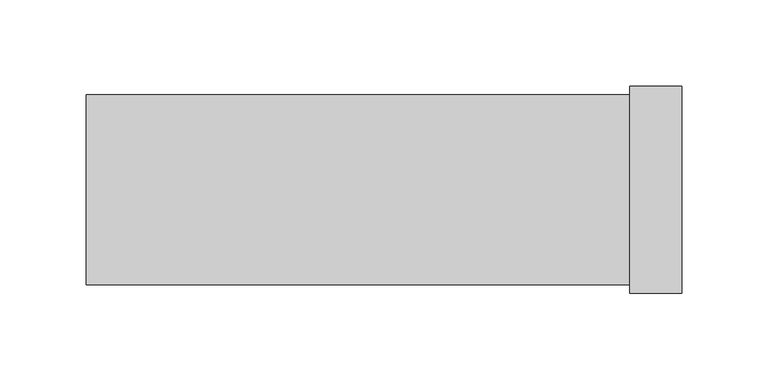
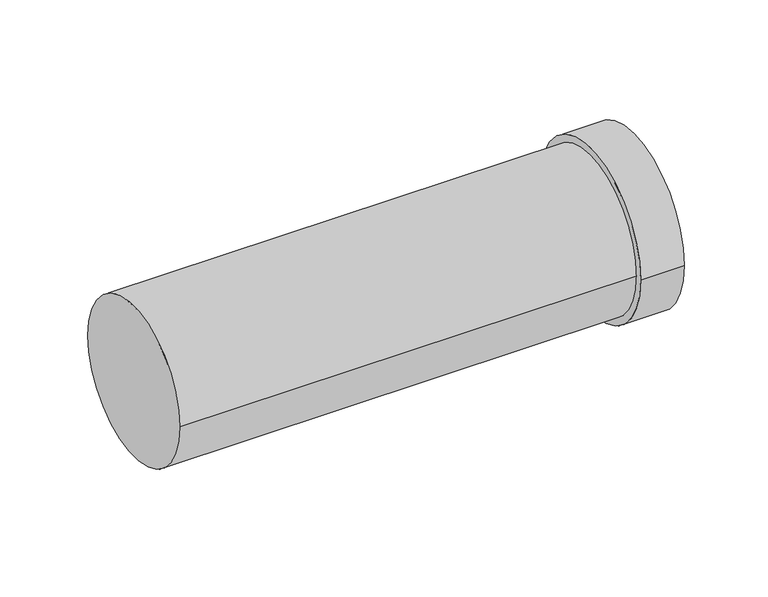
"""IFC4 building model written with IfcOpenShell, lengths in millimetres: pipe fitting geometry, NLRS_52_PIF_UN_PE aansluitstuk met steekmof, voor wand-wc_geb : DN90-100 / ø90-110."""

from ifc_helpers import new_model, si_unit, point, frame, origin, origin_2d, place, context, project, spatial, circle_curve, trimmed, segment, composite_curve, outline, extrude, source, transform, mapped, element, save


def pipe_fitting_38d1e98c(model_context):
    return source(origin(), model_context, "Body", "SweptSolid", [
        extrude(outline(composite_curve([segment(trimmed(circle_curve(origin_2d(), 60.0), [point((-60.0, 0.0))], [point((60.0, 0.0))], False, "CARTESIAN"), True, "CONTINUOUS"), segment(trimmed(circle_curve(origin_2d(), 60.0), [point((60.0, 0.0))], [point((-60.0, 0.0))], False, "CARTESIAN"), True, "CONTINUOUS")], self_intersect=False)), frame((157.5, 0.0, 0.0), z_axis=(1.0, 0.0, 0.0), x_axis=(0.0, 1.0, 0.0)), (0.0, 0.0, 1.0), 30.0),
        extrude(outline(composite_curve([segment(trimmed(circle_curve(origin_2d(), 55.0), [point((-55.0, 0.0))], [point((55.0, 0.0))], False, "CARTESIAN"), True, "CONTINUOUS"), segment(trimmed(circle_curve(origin_2d(), 55.0), [point((55.0, 0.0))], [point((-55.0, 0.0))], False, "CARTESIAN"), True, "CONTINUOUS")], self_intersect=False)), frame((-157.5, 0.0, 0.0), z_axis=(1.0, 0.0, 0.0), x_axis=(0.0, 1.0, 0.0)), (0.0, 0.0, 1.0), 315.0),
    ])


if __name__ == "__main__":
    model = new_model("IFC4")
    model_context = context("Model", 3, world=origin())
    ifc_project = project(units=[si_unit("LENGTHUNIT", "METRE", prefix="MILLI")], contexts=[model_context])
    site = spatial("IfcSite", under=ifc_project)
    building = spatial("IfcBuilding", under=site)
    placement = place(None, origin())
    pipe_fitting_shape = pipe_fitting_38d1e98c(model_context)
    element("IfcPipeFitting", 1, ObjectType="NLRS_52_PIF_UN_PE aansluitstuk met steekmof, voor wand-wc_geb : DN90-100 / ø90-110", at=placement, inside=building, context=model_context, shape_type="MappedRepresentation", body=[
        mapped(pipe_fitting_shape, transform((0.0, 0.0, 0.0), x_axis=(1.0, 0.0, 0.0), y_axis=(0.0, 1.0, 0.0), z_axis=(0.0, 0.0, 1.0))),
    ])
    save(model, "model.ifc")
